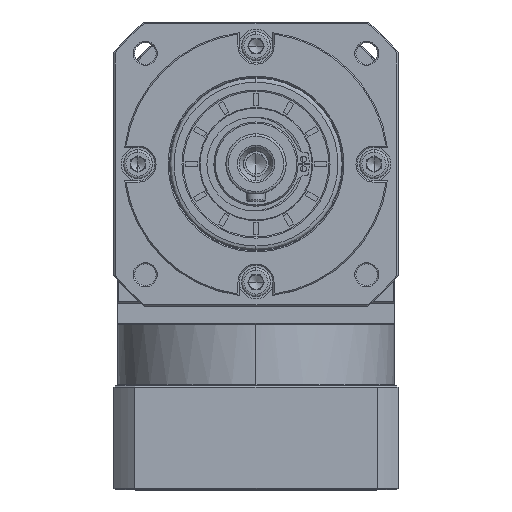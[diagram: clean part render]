
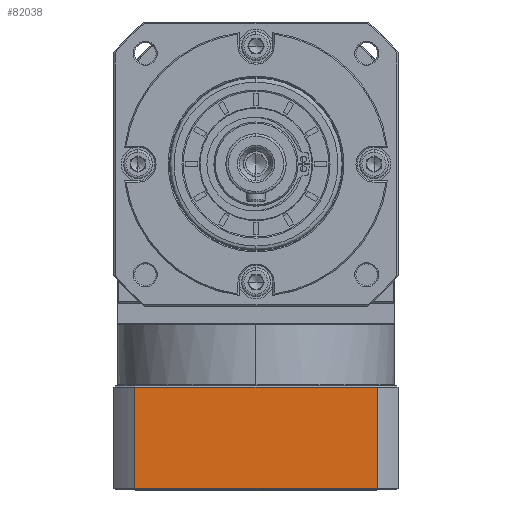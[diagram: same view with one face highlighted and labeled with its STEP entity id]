
A CAD part, top view. The second image highlights one B-rep face of the part: STEP entity #82038.
In plain terms, the highlighted planar face has unit normal (0, 0, 1).
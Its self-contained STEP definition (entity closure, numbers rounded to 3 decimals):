
#3203 = AXIS2_PLACEMENT_3D ( 'NONE', #3315, #99336, #46785 ) ;
#3315 = CARTESIAN_POINT ( 'NONE',  ( -249.995, -174.321, 101.38 ) ) ;
#5697 = EDGE_LOOP ( 'NONE', ( #42631, #48969, #123908, #8479 ) ) ;
#8479 = ORIENTED_EDGE ( 'NONE', *, *, #104943, .F. ) ;
#13383 = EDGE_CURVE ( 'NONE', #103270, #58554, #119234, .T. ) ;
#13482 = DIRECTION ( 'NONE',  ( -1., 0., 0. ) ) ;
#23978 = LINE ( 'NONE', #31852, #103894 ) ;
#28713 = VECTOR ( 'NONE', #13482, 1000. ) ;
#31852 = CARTESIAN_POINT ( 'NONE',  ( -140.743, 90.074, 101.38 ) ) ;
#35001 = VECTOR ( 'NONE', #51529, 1000. ) ;
#42631 = ORIENTED_EDGE ( 'NONE', *, *, #134134, .F. ) ;
#44112 = FACE_OUTER_BOUND ( 'NONE', #5697, .T. ) ;
#46785 = DIRECTION ( 'NONE',  ( -1., 0., 0. ) ) ;
#48969 = ORIENTED_EDGE ( 'NONE', *, *, #151064, .F. ) ;
#49748 = VECTOR ( 'NONE', #135102, 1000. ) ;
#51167 = VERTEX_POINT ( 'NONE', #53521 ) ;
#51529 = DIRECTION ( 'NONE',  ( 1., 0., 0. ) ) ;
#52446 = CARTESIAN_POINT ( 'NONE',  ( -249.995, -173.821, 101.38 ) ) ;
#53521 = CARTESIAN_POINT ( 'NONE',  ( -140.743, -173.821, 101.38 ) ) ;
#55437 = LINE ( 'NONE', #117736, #35001 ) ;
#58554 = VERTEX_POINT ( 'NONE', #151536 ) ;
#77207 = VERTEX_POINT ( 'NONE', #153393 ) ;
#82038 = ADVANCED_FACE ( 'NONE', ( #44112 ), #146926, .F. ) ;
#88668 = CARTESIAN_POINT ( 'NONE',  ( -241.247, -173.821, 101.38 ) ) ;
#90031 = LINE ( 'NONE', #52446, #28713 ) ;
#99336 = DIRECTION ( 'NONE',  ( 0., 0., -1. ) ) ;
#103270 = VERTEX_POINT ( 'NONE', #88668 ) ;
#103894 = VECTOR ( 'NONE', #149642, 1000. ) ;
#104943 = EDGE_CURVE ( 'NONE', #51167, #103270, #90031, .T. ) ;
#117736 = CARTESIAN_POINT ( 'NONE',  ( -249.995, -131.821, 101.38 ) ) ;
#119234 = LINE ( 'NONE', #133991, #49748 ) ;
#123908 = ORIENTED_EDGE ( 'NONE', *, *, #13383, .F. ) ;
#133991 = CARTESIAN_POINT ( 'NONE',  ( -241.247, -174.321, 101.38 ) ) ;
#134134 = EDGE_CURVE ( 'NONE', #77207, #51167, #23978, .T. ) ;
#135102 = DIRECTION ( 'NONE',  ( 0., 1., 0. ) ) ;
#146926 = PLANE ( 'NONE',  #3203 ) ;
#149642 = DIRECTION ( 'NONE',  ( 0., -1., 0. ) ) ;
#151064 = EDGE_CURVE ( 'NONE', #58554, #77207, #55437, .T. ) ;
#151536 = CARTESIAN_POINT ( 'NONE',  ( -241.247, -131.821, 101.38 ) ) ;
#153393 = CARTESIAN_POINT ( 'NONE',  ( -140.743, -131.821, 101.38 ) ) ;
